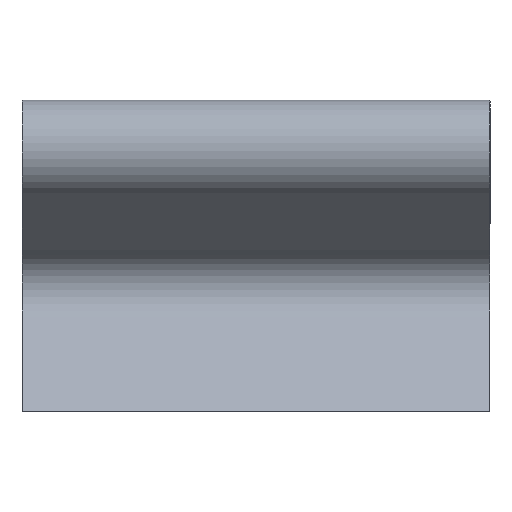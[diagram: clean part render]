
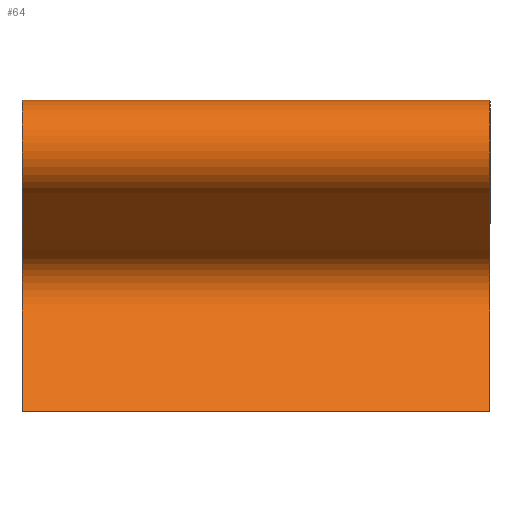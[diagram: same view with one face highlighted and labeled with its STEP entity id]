
A CAD part, left-side view. The second image highlights one B-rep face of the part: STEP entity #64.
In plain terms, the highlighted free-form (B-spline) face has degree [2, 1] with [13, 2] control points.
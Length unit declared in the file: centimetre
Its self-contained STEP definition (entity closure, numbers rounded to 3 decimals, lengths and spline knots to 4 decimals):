
#17=(
BOUNDED_CURVE()
B_SPLINE_CURVE(1,(#1028,#1029),.UNSPECIFIED.,.F.,.F.)
B_SPLINE_CURVE_WITH_KNOTS((2,2),(0.,60.),.UNSPECIFIED.)
CURVE()
GEOMETRIC_REPRESENTATION_ITEM()
RATIONAL_B_SPLINE_CURVE((1.,1.))
REPRESENTATION_ITEM($)
);
#19=(
BOUNDED_CURVE()
B_SPLINE_CURVE(2,(#1036,#1037,#1038,#1039,#1040,#1041,#1042,#1043,#1044,
#1045,#1046,#1047,#1048),.UNSPECIFIED.,.F.,.F.)
B_SPLINE_CURVE_WITH_KNOTS((3,2,2,2,2,2,3),(348.2131,356.7216,
365.23,379.9732,384.8688,389.7645,405.9873),
.UNSPECIFIED.)
CURVE()
GEOMETRIC_REPRESENTATION_ITEM()
RATIONAL_B_SPLINE_CURVE((1.,0.793,1.,0.793,1.,1.,
1.,0.903,1.,0.903,1.,1.,1.))
REPRESENTATION_ITEM($)
);
#20=(
BOUNDED_CURVE()
B_SPLINE_CURVE(2,(#1049,#1050,#1051,#1052,#1053,#1054,#1055,#1056,#1057,
#1058,#1059,#1060,#1061),.UNSPECIFIED.,.F.,.F.)
B_SPLINE_CURVE_WITH_KNOTS((3,2,2,2,2,2,3),(348.2131,356.7216,
365.23,379.9732,384.8688,389.7645,405.9873),
.UNSPECIFIED.)
CURVE()
GEOMETRIC_REPRESENTATION_ITEM()
RATIONAL_B_SPLINE_CURVE((1.,0.793,1.,0.793,1.,1.,
1.,0.903,1.,0.903,1.,1.,1.))
REPRESENTATION_ITEM($)
);
#64=ADVANCED_FACE($,(#100),#390,.T.);
#100=FACE_OUTER_BOUND($,#136,.T.);
#136=EDGE_LOOP($,(#228,#229,#230,#231));
#228=ORIENTED_EDGE($,*,*,#323,.T.);
#229=ORIENTED_EDGE($,*,*,#313,.F.);
#230=ORIENTED_EDGE($,*,*,#322,.F.);
#231=ORIENTED_EDGE($,*,*,#319,.T.);
#313=EDGE_CURVE($,#364,#365,#449,.T.);
#319=EDGE_CURVE($,#368,#370,#17,.T.);
#322=EDGE_CURVE($,#368,#364,#19,.T.);
#323=EDGE_CURVE($,#370,#365,#20,.T.);
#364=VERTEX_POINT($,#1256);
#365=VERTEX_POINT($,#1257);
#368=VERTEX_POINT($,#1260);
#370=VERTEX_POINT($,#1262);
#390=(
BOUNDED_SURFACE()
B_SPLINE_SURFACE(2,1,((#1144,#1145),(#1146,#1147),(#1148,#1149),(#1150,#1151),
(#1152,#1153),(#1154,#1155),(#1156,#1157),(#1158,#1159),(#1160,#1161),(#1162,
#1163),(#1164,#1165),(#1166,#1167),(#1168,#1169)),.UNSPECIFIED.,.F.,.F.,
.F.)
B_SPLINE_SURFACE_WITH_KNOTS((3,2,2,2,2,2,3),(2,2),(-405.9873,-389.7645,
-384.8688,-379.9732,-365.23,-356.7216,
-348.2131),(0.,60.),.UNSPECIFIED.)
GEOMETRIC_REPRESENTATION_ITEM()
RATIONAL_B_SPLINE_SURFACE(((1.,1.),(1.,1.),(1.,1.),(0.903,0.903),
(1.,1.),(0.903,0.903),(1.,1.),(1.,1.),(1.,1.),(0.793,
0.793),(1.,1.),(0.793,0.793),(1.,1.)))
REPRESENTATION_ITEM($)
SURFACE()
);
#449=B_SPLINE_CURVE_WITH_KNOTS($,1,(#992,#993),.UNSPECIFIED.,.F.,.F.,(2,
2),(0.,60.),.UNSPECIFIED.);
#992=CARTESIAN_POINT($,(-258.5,0.,0.));
#993=CARTESIAN_POINT($,(-258.5,60.,0.));
#1028=CARTESIAN_POINT($,(-258.5,0.,40.));
#1029=CARTESIAN_POINT($,(-258.5,60.,40.));
#1036=CARTESIAN_POINT($,(-258.5,0.,40.));
#1037=CARTESIAN_POINT($,(-263.4876,0.,40.));
#1038=CARTESIAN_POINT($,(-264.7785,0.,35.1823));
#1039=CARTESIAN_POINT($,(-266.0694,0.,30.3646));
#1040=CARTESIAN_POINT($,(-261.75,0.,27.8708));
#1041=CARTESIAN_POINT($,(-255.366,0.,24.1851));
#1042=CARTESIAN_POINT($,(-248.9821,0.,20.4993));
#1043=CARTESIAN_POINT($,(-246.7102,0.,19.1876));
#1044=CARTESIAN_POINT($,(-246.2998,0.,16.5965));
#1045=CARTESIAN_POINT($,(-245.8894,0.,14.0055));
#1046=CARTESIAN_POINT($,(-247.6448,0.,12.0559));
#1047=CARTESIAN_POINT($,(-253.0724,0.,6.028));
#1048=CARTESIAN_POINT($,(-258.5,0.,0.));
#1049=CARTESIAN_POINT($,(-258.5,60.,40.));
#1050=CARTESIAN_POINT($,(-263.4876,60.,40.));
#1051=CARTESIAN_POINT($,(-264.7785,60.,35.1823));
#1052=CARTESIAN_POINT($,(-266.0694,60.,30.3646));
#1053=CARTESIAN_POINT($,(-261.75,60.,27.8708));
#1054=CARTESIAN_POINT($,(-255.366,60.,24.1851));
#1055=CARTESIAN_POINT($,(-248.9821,60.,20.4993));
#1056=CARTESIAN_POINT($,(-246.7102,60.,19.1876));
#1057=CARTESIAN_POINT($,(-246.2998,60.,16.5965));
#1058=CARTESIAN_POINT($,(-245.8894,60.,14.0055));
#1059=CARTESIAN_POINT($,(-247.6448,60.,12.0559));
#1060=CARTESIAN_POINT($,(-253.0724,60.,6.028));
#1061=CARTESIAN_POINT($,(-258.5,60.,0.));
#1144=CARTESIAN_POINT($,(-258.5,0.,0.));
#1145=CARTESIAN_POINT($,(-258.5,60.,0.));
#1146=CARTESIAN_POINT($,(-253.0724,0.,6.028));
#1147=CARTESIAN_POINT($,(-253.0724,60.,6.028));
#1148=CARTESIAN_POINT($,(-247.6448,0.,12.0559));
#1149=CARTESIAN_POINT($,(-247.6448,60.,12.0559));
#1150=CARTESIAN_POINT($,(-245.8894,0.,14.0055));
#1151=CARTESIAN_POINT($,(-245.8894,60.,14.0055));
#1152=CARTESIAN_POINT($,(-246.2998,0.,16.5965));
#1153=CARTESIAN_POINT($,(-246.2998,60.,16.5965));
#1154=CARTESIAN_POINT($,(-246.7102,0.,19.1876));
#1155=CARTESIAN_POINT($,(-246.7102,60.,19.1876));
#1156=CARTESIAN_POINT($,(-248.9821,0.,20.4993));
#1157=CARTESIAN_POINT($,(-248.9821,60.,20.4993));
#1158=CARTESIAN_POINT($,(-255.366,0.,24.1851));
#1159=CARTESIAN_POINT($,(-255.366,60.,24.1851));
#1160=CARTESIAN_POINT($,(-261.75,0.,27.8708));
#1161=CARTESIAN_POINT($,(-261.75,60.,27.8708));
#1162=CARTESIAN_POINT($,(-266.0694,0.,30.3646));
#1163=CARTESIAN_POINT($,(-266.0694,60.,30.3646));
#1164=CARTESIAN_POINT($,(-264.7785,0.,35.1823));
#1165=CARTESIAN_POINT($,(-264.7785,60.,35.1823));
#1166=CARTESIAN_POINT($,(-263.4876,0.,40.));
#1167=CARTESIAN_POINT($,(-263.4876,60.,40.));
#1168=CARTESIAN_POINT($,(-258.5,0.,40.));
#1169=CARTESIAN_POINT($,(-258.5,60.,40.));
#1256=CARTESIAN_POINT($,(-258.5,0.,0.));
#1257=CARTESIAN_POINT($,(-258.5,60.,0.));
#1260=CARTESIAN_POINT($,(-258.5,0.,40.));
#1262=CARTESIAN_POINT($,(-258.5,60.,40.));
